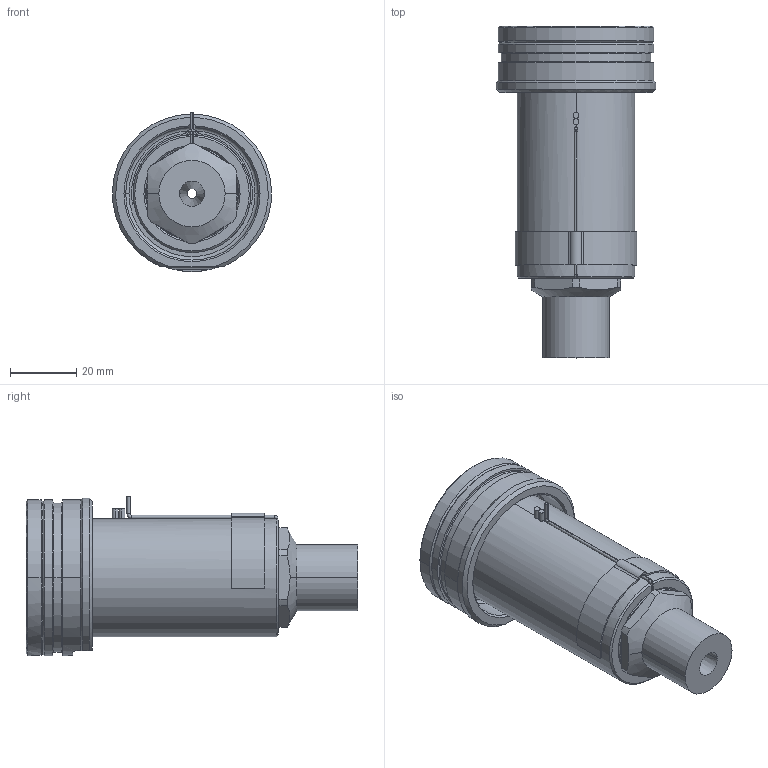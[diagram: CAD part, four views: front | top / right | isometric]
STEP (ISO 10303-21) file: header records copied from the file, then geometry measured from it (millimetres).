
FILE_DESCRIPTION((''),'2;1');
FILE_NAME('EO16_SG_ESG_070_SW','2024-02-19T12:34:37',('sundharh'),(''),'CREO PARAMETRIC BY PTC INC, 2023154','CREO PARAMETRIC BY PTC INC, 2023154','');
FILE_SCHEMA(('CONFIG_CONTROL_DESIGN'));
Length unit declared in the file: millimetre
Products named in the file (1): EO16_SG_ESG_070_SW
Bounding box: 47.97 x 100 x 48 mm (x, y, z)
Volume: 80377.3 mm3; surface area: 22481.7 mm2
Topology: 1 solids, 1 shells, 164 faces, 403 edges, 245 vertices
Faces by surface type: cylinder 64, plane 45, cone 31, torus 14, bspline 7, sphere 3
Entity records: 5517 total; most frequent: CARTESIAN_POINT 1586, DIRECTION 868, ORIENTED_EDGE 790, EDGE_CURVE 395, AXIS2_PLACEMENT_3D 358, VERTEX_POINT 245, CIRCLE 201, EDGE_LOOP 180
